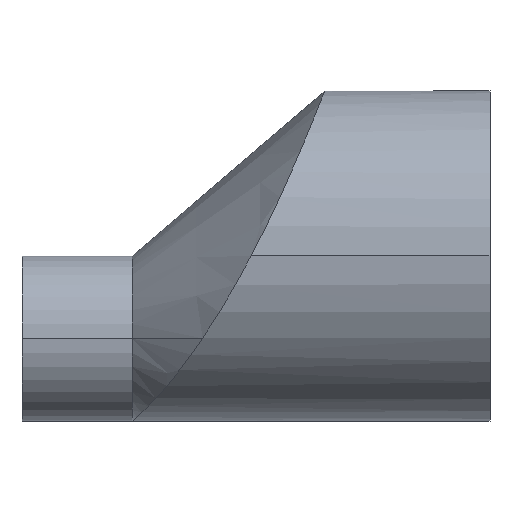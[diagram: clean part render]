
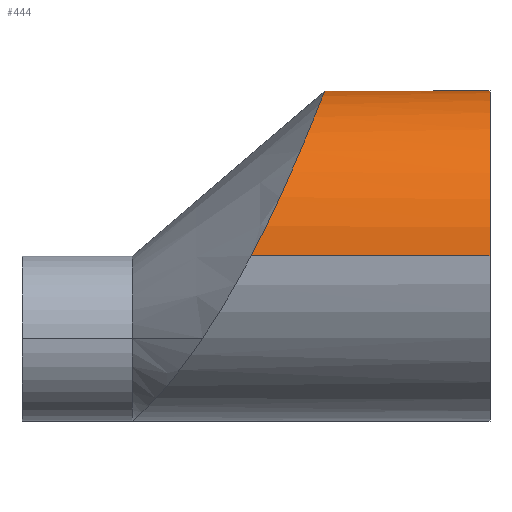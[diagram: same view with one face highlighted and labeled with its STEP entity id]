
A CAD part, top view. The second image highlights one B-rep face of the part: STEP entity #444.
In plain terms, the highlighted cylindrical face has radius 38.1 mm (diameter 76.2 mm), a partial arc.
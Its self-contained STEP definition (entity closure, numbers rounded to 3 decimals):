
#7 = CARTESIAN_POINT ( 'NONE',  ( -42.73, 26.607, 27.278 ) ) ;
#9 = CARTESIAN_POINT ( 'NONE',  ( -50.449, 9.262, 37.031 ) ) ;
#25 = ORIENTED_EDGE ( 'NONE', *, *, #595, .F. ) ;
#33 = CARTESIAN_POINT ( 'NONE',  ( -47.071, 16.583, 34.307 ) ) ;
#40 = ORIENTED_EDGE ( 'NONE', *, *, #183, .T. ) ;
#50 = CARTESIAN_POINT ( 'NONE',  ( -42.542, 27.058, 26.83 ) ) ;
#57 = CARTESIAN_POINT ( 'NONE',  ( -38.647, 36.7, -10.254 ) ) ;
#60 = CARTESIAN_POINT ( 'NONE',  ( -40.58, 31.84, 20.963 ) ) ;
#66 = CARTESIAN_POINT ( 'NONE',  ( -54.475, 1.162, -38.087 ) ) ;
#69 = CARTESIAN_POINT ( 'NONE',  ( -43.069, 25.798, -28.044 ) ) ;
#72 = CARTESIAN_POINT ( 'NONE',  ( -42.003, 28.358, 25.452 ) ) ;
#102 = CARTESIAN_POINT ( 'NONE',  ( -53.859, 2.338, 38.1 ) ) ;
#113 = CARTESIAN_POINT ( 'NONE',  ( -41.492, 29.598, 24.024 ) ) ;
#116 = CARTESIAN_POINT ( 'NONE',  ( -38.634, 36.731, 10.451 ) ) ;
#117 = FACE_OUTER_BOUND ( 'NONE', #556, .T. ) ;
#119 = CARTESIAN_POINT ( 'NONE',  ( -44.937, 21.416, -31.535 ) ) ;
#122 = CARTESIAN_POINT ( 'NONE',  ( -39.925, 33.471, 18.213 ) ) ;
#126 = EDGE_CURVE ( 'NONE', #590, #623, #174, .T. ) ;
#128 = CARTESIAN_POINT ( 'NONE',  ( -40.305, 32.522, 19.889 ) ) ;
#138 = CARTESIAN_POINT ( 'NONE',  ( -55.078, 0., -38.1 ) ) ;
#140 = AXIS2_PLACEMENT_3D ( 'NONE', #341, #227, #175 ) ;
#143 = DIRECTION ( 'NONE',  ( 0., 0., -1. ) ) ;
#171 = CARTESIAN_POINT ( 'NONE',  ( 0., 0., 38.1 ) ) ;
#174 = CIRCLE ( 'NONE', #204, 38.1 ) ;
#175 = DIRECTION ( 'NONE',  ( 0., 0., -1. ) ) ;
#177 = CARTESIAN_POINT ( 'NONE',  ( -38.318, 37.541, 6.632 ) ) ;
#181 = CARTESIAN_POINT ( 'NONE',  ( -46.31, 18.284, -33.448 ) ) ;
#183 = EDGE_CURVE ( 'NONE', #374, #623, #255, .T. ) ;
#185 = CARTESIAN_POINT ( 'NONE',  ( -39.804, 33.774, 17.645 ) ) ;
#188 = CARTESIAN_POINT ( 'NONE',  ( -39.533, 34.453, -16.318 ) ) ;
#189 = CARTESIAN_POINT ( 'NONE',  ( -40.55, 31.915, -20.819 ) ) ;
#194 = CARTESIAN_POINT ( 'NONE',  ( -38.458, 37.181, -8.346 ) ) ;
#199 = CARTESIAN_POINT ( 'NONE',  ( -41.173, 30.378, 23.031 ) ) ;
#201 = CARTESIAN_POINT ( 'NONE',  ( 0., 0., 0. ) ) ;
#204 = AXIS2_PLACEMENT_3D ( 'NONE', #201, #541, #143 ) ;
#227 = DIRECTION ( 'NONE',  ( 1., 0., 0. ) ) ;
#234 = CARTESIAN_POINT ( 'NONE',  ( -38.101, 38.097, 1.397 ) ) ;
#238 = CARTESIAN_POINT ( 'NONE',  ( -46.343, 18.209, 33.489 ) ) ;
#242 = CARTESIAN_POINT ( 'NONE',  ( -38.949, 35.931, -12.738 ) ) ;
#247 = CARTESIAN_POINT ( 'NONE',  ( -55.078, 0., 38.1 ) ) ;
#249 = CARTESIAN_POINT ( 'NONE',  ( -38.198, 37.846, -5.12 ) ) ;
#254 = CARTESIAN_POINT ( 'NONE',  ( -49.34, 11.612, -36.368 ) ) ;
#255 = LINE ( 'NONE', #542, #546 ) ;
#281 = CARTESIAN_POINT ( 'NONE',  ( -43.669, 24.377, -29.287 ) ) ;
#295 = CARTESIAN_POINT ( 'NONE',  ( -47.821, 14.925, 35.06 ) ) ;
#303 = CARTESIAN_POINT ( 'NONE',  ( -52.692, 4.659, 37.886 ) ) ;
#305 = CARTESIAN_POINT ( 'NONE',  ( -107.95, 0., -38.1 ) ) ;
#332 = DIRECTION ( 'NONE',  ( 1., 0., 0. ) ) ;
#341 = CARTESIAN_POINT ( 'NONE',  ( -107.95, 0., 0. ) ) ;
#344 = CARTESIAN_POINT ( 'NONE',  ( -38.517, 37.031, -8.987 ) ) ;
#350 = CARTESIAN_POINT ( 'NONE',  ( -45.876, 19.267, 32.892 ) ) ;
#352 = CARTESIAN_POINT ( 'NONE',  ( -38.718, 36.519, -10.88 ) ) ;
#354 = CARTESIAN_POINT ( 'NONE',  ( -39.761, 33.88, -17.476 ) ) ;
#360 = DIRECTION ( 'NONE',  ( 1., 0., 0. ) ) ;
#361 = CARTESIAN_POINT ( 'NONE',  ( -49.373, 11.543, 36.39 ) ) ;
#363 = CARTESIAN_POINT ( 'NONE',  ( -43.691, 24.315, 29.441 ) ) ;
#364 = ORIENTED_EDGE ( 'NONE', *, *, #637, .F. ) ;
#374 = VERTEX_POINT ( 'NONE', #669 ) ;
#383 = ORIENTED_EDGE ( 'NONE', *, *, #126, .F. ) ;
#393 = CARTESIAN_POINT ( 'NONE',  ( -50.419, 9.325, -37.017 ) ) ;
#396 = CARTESIAN_POINT ( 'NONE',  ( 0., 0., -38.1 ) ) ;
#403 = CARTESIAN_POINT ( 'NONE',  ( -53.876, 2.331, -38.033 ) ) ;
#406 = CARTESIAN_POINT ( 'NONE',  ( -54.776, 0.58, -38.1 ) ) ;
#415 = CARTESIAN_POINT ( 'NONE',  ( -39.572, 34.355, 16.485 ) ) ;
#424 = CARTESIAN_POINT ( 'NONE',  ( -41.435, 29.731, -23.962 ) ) ;
#425 = CARTESIAN_POINT ( 'NONE',  ( -42.112, 28.081, -25.873 ) ) ;
#444 = ADVANCED_FACE ( 'NONE', ( #117 ), #575, .T. ) ;
#451 = CARTESIAN_POINT ( 'NONE',  ( -40.141, 32.931, -19.172 ) ) ;
#462 = CARTESIAN_POINT ( 'NONE',  ( -38.945, 35.939, 12.915 ) ) ;
#465 = CARTESIAN_POINT ( 'NONE',  ( -43.874, 23.895, -29.682 ) ) ;
#469 = CARTESIAN_POINT ( 'NONE',  ( -40.693, 31.561, -21.352 ) ) ;
#472 = CARTESIAN_POINT ( 'NONE',  ( -42.178, 27.933, 25.919 ) ) ;
#476 = CARTESIAN_POINT ( 'NONE',  ( -47.283, 16.108, -34.549 ) ) ;
#519 = CARTESIAN_POINT ( 'NONE',  ( -38.128, 38.027, 2.708 ) ) ;
#523 = CARTESIAN_POINT ( 'NONE',  ( -44.502, 22.425, -30.827 ) ) ;
#534 = CARTESIAN_POINT ( 'NONE',  ( -47.318, 16.035, 34.567 ) ) ;
#541 = DIRECTION ( 'NONE',  ( 1., 0., 0. ) ) ;
#542 = CARTESIAN_POINT ( 'NONE',  ( -107.95, 0., 38.1 ) ) ;
#546 = VECTOR ( 'NONE', #360, 1000. ) ;
#556 = EDGE_LOOP ( 'NONE', ( #25, #40, #383, #364 ) ) ;
#575 = CYLINDRICAL_SURFACE ( 'NONE', #140, 38.1 ) ;
#582 = CARTESIAN_POINT ( 'NONE',  ( -38.237, 37.747, 5.338 ) ) ;
#586 = CARTESIAN_POINT ( 'NONE',  ( -47.79, 14.989, -35.049 ) ) ;
#590 = VERTEX_POINT ( 'NONE', #396 ) ;
#595 = EDGE_CURVE ( 'NONE', #374, #625, #633, .T. ) ;
#615 = CARTESIAN_POINT ( 'NONE',  ( -53.578, 2.918, -37.993 ) ) ;
#620 = CARTESIAN_POINT ( 'NONE',  ( -52.691, 4.68, -37.83 ) ) ;
#623 = VERTEX_POINT ( 'NONE', #171 ) ;
#625 = VERTEX_POINT ( 'NONE', #138 ) ;
#632 = CARTESIAN_POINT ( 'NONE',  ( -48.078, 14.362, 35.295 ) ) ;
#633 = B_SPLINE_CURVE_WITH_KNOTS ( 'NONE', 3,
 ( #247, #102, #303, #9, #361, #632, #295, #534, #33, #238, #350, #694, #363, #7, #50, #472, #72, #113, #199, #60, #128, #122, #185, #415, #699, #462, #116, #177, #582, #519, #234, #686, #249, #194, #344, #57, #352, #242, #639, #188, #354, #451, #635, #189, #469, #424, #425, #69, #675, #281, #465, #523, #119, #690, #181, #476, #586, #254, #393, #737, #620, #615, #403, #66, #406, #682 ),
 .UNSPECIFIED., .F., .F.,
 ( 4, 2, 2, 2, 2, 2, 2, 2, 2, 2, 2, 2, 2, 2, 2, 2, 2, 2, 2, 2, 2, 2, 2, 2, 2, 2, 2, 2, 2, 2, 2, 2, 4 ),
 ( 0.09, 0.098, 0.106, 0.108, 0.11, 0.113, 0.121, 0.123, 0.125, 0.129, 0.133, 0.135, 0.137, 0.145, 0.148, 0.152, 0.16, 0.162, 0.164, 0.168, 0.172, 0.174, 0.176, 0.184, 0.185, 0.187, 0.191, 0.195, 0.199, 0.207, 0.211, 0.213, 0.215 ),
 .UNSPECIFIED. ) ;
#635 = CARTESIAN_POINT ( 'NONE',  ( -40.274, 32.6, -19.729 ) ) ;
#637 = EDGE_CURVE ( 'NONE', #625, #590, #688, .T. ) ;
#639 = CARTESIAN_POINT ( 'NONE',  ( -39.127, 35.478, -13.949 ) ) ;
#649 = VECTOR ( 'NONE', #332, 1000. ) ;
#669 = CARTESIAN_POINT ( 'NONE',  ( -55.078, 0., 38.1 ) ) ;
#675 = CARTESIAN_POINT ( 'NONE',  ( -43.267, 25.329, -28.469 ) ) ;
#682 = CARTESIAN_POINT ( 'NONE',  ( -55.078, 0., -38.1 ) ) ;
#686 = CARTESIAN_POINT ( 'NONE',  ( -38.098, 38.106, -2.523 ) ) ;
#688 = LINE ( 'NONE', #305, #649 ) ;
#690 = CARTESIAN_POINT ( 'NONE',  ( -45.841, 19.346, -32.846 ) ) ;
#694 = CARTESIAN_POINT ( 'NONE',  ( -44.525, 22.36, 30.945 ) ) ;
#699 = CARTESIAN_POINT ( 'NONE',  ( -39.462, 34.633, 15.893 ) ) ;
#737 = CARTESIAN_POINT ( 'NONE',  ( -52.113, 5.847, -37.667 ) ) ;
